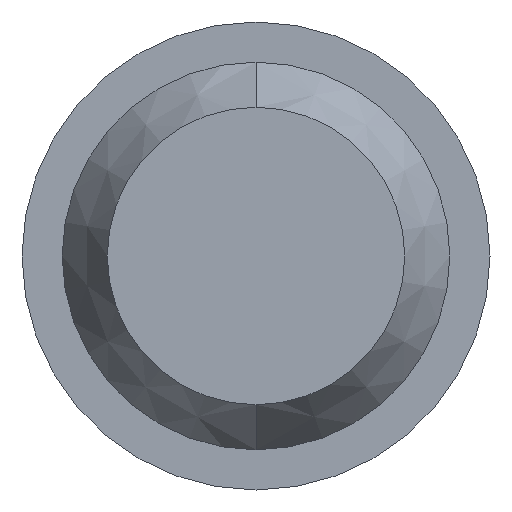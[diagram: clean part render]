
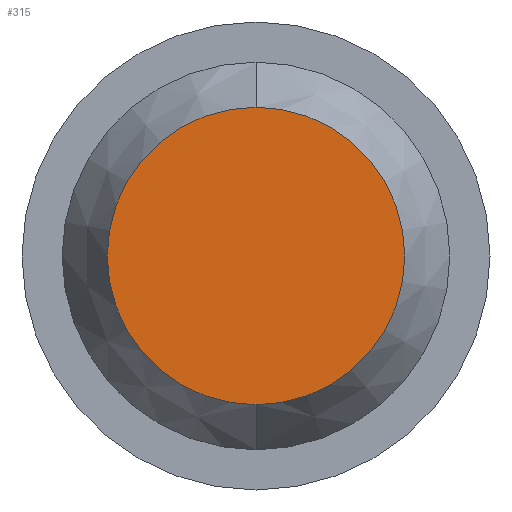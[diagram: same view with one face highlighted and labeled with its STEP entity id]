
A CAD part, front view. The second image highlights one B-rep face of the part: STEP entity #315.
In plain terms, the highlighted planar face has unit normal (0, -1, 0).
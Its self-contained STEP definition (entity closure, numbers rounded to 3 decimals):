
#42 = EDGE_LOOP ( 'NONE', ( #113, #387 ) ) ;
#65 = EDGE_CURVE ( 'NONE', #300, #80, #91, .T. ) ;
#67 = DIRECTION ( 'NONE',  ( 0., 1., 0. ) ) ;
#80 = VERTEX_POINT ( 'NONE', #318 ) ;
#81 = CARTESIAN_POINT ( 'NONE',  ( 0., -5.15, 1.908 ) ) ;
#87 = PLANE ( 'NONE',  #276 ) ;
#91 = CIRCLE ( 'NONE', #353, 1.908 ) ;
#113 = ORIENTED_EDGE ( 'NONE', *, *, #65, .F. ) ;
#119 = FACE_OUTER_BOUND ( 'NONE', #42, .T. ) ;
#170 = DIRECTION ( 'NONE',  ( 0., 0., 1. ) ) ;
#193 = CIRCLE ( 'NONE', #361, 1.908 ) ;
#197 = CARTESIAN_POINT ( 'NONE',  ( 0., -5.15, 0. ) ) ;
#223 = CARTESIAN_POINT ( 'NONE',  ( 0., -5.15, 0. ) ) ;
#231 = DIRECTION ( 'NONE',  ( 0., 0., -1. ) ) ;
#248 = EDGE_CURVE ( 'NONE', #80, #300, #193, .T. ) ;
#258 = DIRECTION ( 'NONE',  ( 0., -1., 0. ) ) ;
#263 = CARTESIAN_POINT ( 'NONE',  ( 0., -5.15, 0. ) ) ;
#276 = AXIS2_PLACEMENT_3D ( 'NONE', #223, #258, #231 ) ;
#300 = VERTEX_POINT ( 'NONE', #81 ) ;
#315 = ADVANCED_FACE ( 'NONE', ( #119 ), #87, .T. ) ;
#318 = CARTESIAN_POINT ( 'NONE',  ( 0., -5.15, -1.908 ) ) ;
#335 = DIRECTION ( 'NONE',  ( 0., 1., 0. ) ) ;
#353 = AXIS2_PLACEMENT_3D ( 'NONE', #197, #67, #170 ) ;
#361 = AXIS2_PLACEMENT_3D ( 'NONE', #263, #335, #373 ) ;
#373 = DIRECTION ( 'NONE',  ( 0., 0., 1. ) ) ;
#387 = ORIENTED_EDGE ( 'NONE', *, *, #248, .F. ) ;
